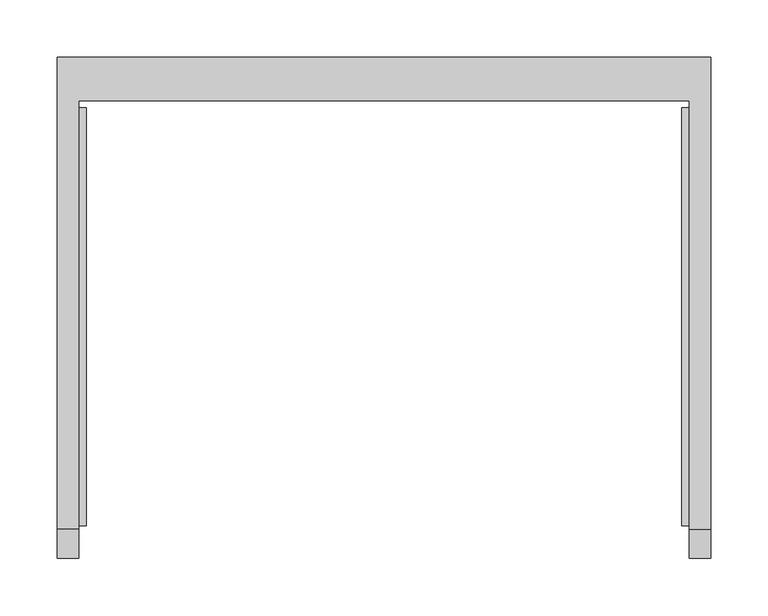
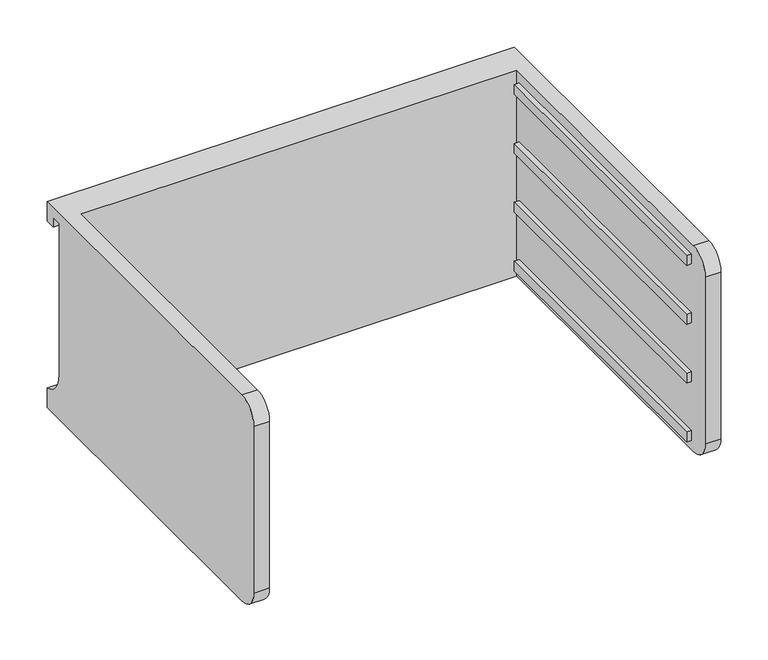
"""IFC4 building model written with IfcOpenShell, lengths in millimetres: furniture geometry."""

from ifc_helpers import new_model, si_unit, frame, origin, place, context, project, spatial, polyline, circle_curve, outline, extrude, source, transform, mapped, element, save
from ifc_brep_helpers import plane_surface, cylinder_surface, revolved_surface, advanced_brep


def furniture_f7d7e143(model_context):
    return source(origin(), model_context, "Body", "SolidModel", [
        advanced_brep(
        [(-171.7622951, -331.6523397, 877.8875), (-171.7622951, -357.0523397, 852.4875), (-171.7622951, -357.0523397, 636.5875), (-171.7622951, -331.6523397, 611.1875), (-171.7622951, 43.0421197, 611.1875), (-171.7622951, 43.0421197, 877.8875), (-190.8122951, -331.6523397, 611.1875), (-190.8122951, -357.0523397, 636.5875), (-190.8122951, -357.0523397, 852.4875), (-190.8122951, -331.6523397, 877.8875), (-190.8122951, 81.0976603, 877.8875), (-190.8122951, 81.0976603, 852.4875), (-190.8122951, 68.4421197, 852.4875), (-190.8122951, 68.4421197, 865.1875), (-190.8122951, 55.7421197, 865.1875), (-190.8122951, 55.7421197, 669.13252), (-190.8122951, 81.0976603, 636.5875), (-190.8122951, 81.0976603, 611.1875), (380.6877049, 81.0976603, 611.1875), (380.6877049, -331.6523397, 611.1875), (361.6377049, -331.6523397, 611.1875), (361.6377049, 43.0421197, 611.1875), (361.6377049, 43.0421197, 877.8875), (361.6377049, -331.6523397, 877.8875), (380.6877049, -331.6523397, 877.8875), (380.6877049, 81.0976603, 877.8875), (380.6877049, 81.0976603, 636.5875), (380.6877049, 55.7421197, 669.13252), (380.6877049, 55.7421197, 865.1875), (380.6877049, 68.4421197, 865.1875), (380.6877049, 68.4421197, 852.4875), (380.6877049, 81.0976603, 852.4875), (380.6877049, -357.0523397, 852.4875), (380.6877049, -357.0523397, 636.5875), (361.6377049, -357.0523397, 636.5875), (361.6377049, -357.0523397, 852.4875)],
        [
            (0, 1, circle_curve(frame((-171.7622951, -331.6523397, 852.4875), z_axis=(1.0, 0.0, 0.0), x_axis=(0.0, 0.0, 1.0)), 25.4)),
            (1, 2),
            (2, 3, circle_curve(frame((-171.7622951, -331.6523397, 636.5875), z_axis=(1.0, 0.0, 0.0), x_axis=(0.0, 0.0, 1.0)), 25.4)),
            (3, 4),
            (4, 5),
            (5, 0),
            (6, 7, circle_curve(frame((-190.8122951, -331.6523397, 636.5875), z_axis=(-1.0, 0.0, 0.0), x_axis=(0.0, 0.0, 1.0)), 25.4)),
            (7, 8),
            (8, 9, circle_curve(frame((-190.8122951, -331.6523397, 852.4875), z_axis=(-1.0, 0.0, 0.0), x_axis=(0.0, 0.0, 1.0)), 25.4)),
            (9, 10),
            (10, 11),
            (11, 12),
            (12, 13),
            (13, 14),
            (14, 15),
            (15, 16, circle_curve(frame((-190.8122951, 89.3064162, 669.13252), z_axis=(1.0, 0.0, 0.0), x_axis=(0.0, 0.0, 1.0)), 33.5642965)),
            (16, 17),
            (17, 6),
            (0, 9),
            (8, 1),
            (7, 2),
            (6, 3),
            (17, 18),
            (18, 19),
            (19, 20),
            (20, 21),
            (21, 4),
            (5, 22),
            (22, 23),
            (23, 24),
            (24, 25),
            (25, 10),
            (18, 26),
            (26, 27, circle_curve(frame((380.6877049, 89.3064162, 669.13252), z_axis=(-1.0, 0.0, 0.0), x_axis=(0.0, 0.0, 1.0)), 33.5642965)),
            (27, 28),
            (28, 29),
            (29, 30),
            (30, 31),
            (31, 25),
            (24, 32, circle_curve(frame((380.6877049, -331.6523397, 852.4875), z_axis=(1.0, 0.0, 0.0), x_axis=(0.0, 0.0, 1.0)), 25.4)),
            (32, 33),
            (33, 19, circle_curve(frame((380.6877049, -331.6523397, 636.5875), z_axis=(1.0, 0.0, 0.0), x_axis=(0.0, 0.0, 1.0)), 25.4)),
            (16, 26),
            (15, 27),
            (14, 28),
            (13, 29),
            (12, 30),
            (11, 31),
            (21, 22),
            (20, 34, circle_curve(frame((361.6377049, -331.6523397, 636.5875), z_axis=(-1.0, 0.0, 0.0), x_axis=(0.0, 0.0, 1.0)), 25.4)),
            (34, 35),
            (35, 23, circle_curve(frame((361.6377049, -331.6523397, 852.4875), z_axis=(-1.0, 0.0, 0.0), x_axis=(0.0, 0.0, 1.0)), 25.4)),
            (35, 32),
            (34, 33),
        ],
        [
            plane_surface(frame((-171.7622951, -331.6523397, 877.8875), z_axis=(1.0, 0.0, 0.0), x_axis=(0.0, -1.0, 0.0))),
            plane_surface(frame((-190.8122951, -331.6523397, 877.8875), z_axis=(-1.0, 0.0, 0.0), x_axis=(0.0, 1.0, 0.0))),
            cylinder_surface(frame((-190.8122951, -331.6523397, 852.4875), z_axis=(1.0, 0.0, 0.0), x_axis=(0.0, 0.0, 1.0)), 25.4),
            plane_surface(frame((-171.7622951, -357.0523397, 852.4875), z_axis=(0.0, -1.0, 0.0), x_axis=(-1.0, 0.0, 0.0))),
            cylinder_surface(frame((-190.8122951, -331.6523397, 636.5875), z_axis=(1.0, 0.0, 0.0), x_axis=(0.0, 0.0, 1.0)), 25.4),
            plane_surface(frame((-171.7622951, -331.6523397, 611.1875), z_axis=(0.0, 0.0, -1.0), x_axis=(-1.0, 0.0, 0.0))),
            plane_surface(frame((-171.7622951, 43.0421197, 877.8875), z_axis=(0.0, 0.0, 1.0), x_axis=(-1.0, 0.0, 0.0))),
            plane_surface(frame((380.6877049, 81.0976603, 636.5875), z_axis=(1.0, 0.0, 0.0), x_axis=(0.0, 0.0, 1.0))),
            plane_surface(frame((380.6877049, 81.0976603, 611.1875), z_axis=(0.0, 1.0, 0.0), x_axis=(-1.0, 0.0, 0.0))),
            revolved_surface(polyline([(-190.8122951, 89.3064162, 702.6968165), (380.68770489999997, 89.3064162, 702.6968165)]), (-190.8122951, 89.3064162, 669.13252), (-1.0, 0.0, 0.0)),
            plane_surface(frame((380.6877049, 55.7421197, 669.13252), z_axis=(0.0, 1.0, 0.0), x_axis=(-1.0, 0.0, 0.0))),
            plane_surface(frame((380.6877049, 55.7421197, 865.1875), z_axis=(0.0, 0.0, -1.0), x_axis=(-1.0, 0.0, 0.0))),
            plane_surface(frame((380.6877049, 68.4421197, 865.1875), z_axis=(0.0, -1.0, 0.0), x_axis=(-1.0, 0.0, 0.0))),
            plane_surface(frame((380.6877049, 68.4421197, 852.4875), z_axis=(0.0, 0.0, -1.0), x_axis=(-1.0, 0.0, 0.0))),
            plane_surface(frame((380.6877049, 81.0976603, 852.4875), z_axis=(0.0, 1.0, 0.0), x_axis=(-1.0, 0.0, 0.0))),
            plane_surface(frame((380.6877049, 43.0421197, 877.8875), z_axis=(0.0, -1.0, 0.0), x_axis=(-1.0, 0.0, 0.0))),
            plane_surface(frame((361.6377049, -331.6523397, 877.8875), z_axis=(-1.0, 0.0, 0.0), x_axis=(0.0, 1.0, 0.0))),
            cylinder_surface(frame((361.6377049, -331.6523397, 852.4875), z_axis=(1.0, 0.0, 0.0), x_axis=(0.0, 0.0, 1.0)), 25.4),
            plane_surface(frame((380.6877049, -357.0523397, 852.4875), z_axis=(0.0, -1.0, 0.0), x_axis=(-1.0, 0.0, 0.0))),
            cylinder_surface(frame((361.6377049, -331.6523397, 636.5875), z_axis=(1.0, 0.0, 0.0), x_axis=(0.0, 0.0, 1.0)), 25.4),
        ],
        [
            (0, [[1, 2, 3, 4, 5, 6]]),
            (1, [[7, 8, 9, 10, 11, 12, 13, 14, 15, 16, 17, 18]]),
            (2, [[-1, 19, -9, 20]]),
            (3, [[-2, -20, -8, 21]]),
            (4, [[-3, -21, -7, 22]]),
            (5, [[-4, -22, -18, 23, 24, 25, 26, 27]]),
            (6, [[-6, 28, 29, 30, 31, 32, -10, -19]]),
            (7, [[-24, 33, 34, 35, 36, 37, 38, 39, -31, 40, 41, 42]]),
            (8, [[-33, -23, -17, 43]]),
            (9, [[-34, -43, -16, 44]]),
            (10, [[-35, -44, -15, 45]]),
            (11, [[-36, -45, -14, 46]]),
            (12, [[-37, -46, -13, 47]]),
            (13, [[-38, -47, -12, 48]]),
            (14, [[-39, -48, -11, -32]]),
            (15, [[-5, -27, 49, -28]]),
            (16, [[-29, -49, -26, 50, 51, 52]]),
            (17, [[-40, -30, -52, 53]]),
            (18, [[-41, -53, -51, 54]]),
            (19, [[-42, -54, -50, -25]]),
        ],
    ),
        extrude(outline(polyline([(355.2877049, -328.4773397), (355.2877049, 36.6921197), (361.6377049, 36.6921197), (361.6377049, -328.4773397), (355.2877049, -328.4773397)])), frame((0.0, 0.0, 700.0875), z_axis=(0.0, 0.0, 1.0), x_axis=(1.0, 0.0, 0.0)), (0.0, 0.0, 1.0), 12.7),
        extrude(outline(polyline([(355.2877049, -328.4773397), (355.2877049, 36.6921197), (361.6377049, 36.6921197), (361.6377049, -328.4773397), (355.2877049, -328.4773397)])), frame((0.0, 0.0, 776.2875), z_axis=(0.0, 0.0, 1.0), x_axis=(1.0, 0.0, 0.0)), (0.0, 0.0, 1.0), 12.7),
        extrude(outline(polyline([(355.2877049, -328.4773397), (355.2877049, 36.6921197), (361.6377049, 36.6921197), (361.6377049, -328.4773397), (355.2877049, -328.4773397)])), frame((0.0, 0.0, 852.4875), z_axis=(0.0, 0.0, 1.0), x_axis=(1.0, 0.0, 0.0)), (0.0, 0.0, 1.0), 12.7),
        extrude(outline(polyline([(355.2877049, -328.4773397), (355.2877049, 36.6921197), (361.6377049, 36.6921197), (361.6377049, -328.4773397), (355.2877049, -328.4773397)])), frame((0.0, 0.0, 623.8875), z_axis=(0.0, 0.0, 1.0), x_axis=(1.0, 0.0, 0.0)), (0.0, 0.0, 1.0), 12.7),
        extrude(outline(polyline([(-171.7622951, -328.4773397), (-171.7622951, 36.6921197), (-165.4122951, 36.6921197), (-165.4122951, -328.4773397), (-171.7622951, -328.4773397)])), frame((0.0, 0.0, 700.0875), z_axis=(0.0, 0.0, 1.0), x_axis=(1.0, 0.0, 0.0)), (0.0, 0.0, 1.0), 12.7),
        extrude(outline(polyline([(-171.7622951, -328.4773397), (-171.7622951, 36.6921197), (-165.4122951, 36.6921197), (-165.4122951, -328.4773397), (-171.7622951, -328.4773397)])), frame((0.0, 0.0, 776.2875), z_axis=(0.0, 0.0, 1.0), x_axis=(1.0, 0.0, 0.0)), (0.0, 0.0, 1.0), 12.7),
        extrude(outline(polyline([(-171.7622951, -328.4773397), (-171.7622951, 36.6921197), (-165.4122951, 36.6921197), (-165.4122951, -328.4773397), (-171.7622951, -328.4773397)])), frame((0.0, 0.0, 852.4875), z_axis=(0.0, 0.0, 1.0), x_axis=(1.0, 0.0, 0.0)), (0.0, 0.0, 1.0), 12.7),
        extrude(outline(polyline([(-171.7622951, -328.4773397), (-171.7622951, 36.6921197), (-165.4122951, 36.6921197), (-165.4122951, -328.4773397), (-171.7622951, -328.4773397)])), frame((0.0, 0.0, 623.8875), z_axis=(0.0, 0.0, 1.0), x_axis=(1.0, 0.0, 0.0)), (0.0, 0.0, 1.0), 12.7),
    ])


if __name__ == "__main__":
    model = new_model("IFC4")
    model_context = context("Model", 3, world=origin())
    ifc_project = project(units=[si_unit("LENGTHUNIT", "METRE", prefix="MILLI")], contexts=[model_context])
    site = spatial("IfcSite", under=ifc_project)
    building = spatial("IfcBuilding", under=site)
    placement = place(None, origin())
    furniture_shape = furniture_f7d7e143(model_context)
    element("IfcFurniture", 1, ObjectType="HermanMiller_CoStruc_CO205_CFrame : 10\"H x 17\"D x 22\"W", at=placement, inside=building, context=model_context, shape_type="MappedRepresentation", body=[
        mapped(furniture_shape, transform((0.0, 0.0, 0.0), x_axis=(1.0, 0.0, 0.0), y_axis=(0.0, 1.0, 0.0), z_axis=(0.0, 0.0, 1.0))),
    ])
    save(model, "model.ifc")
